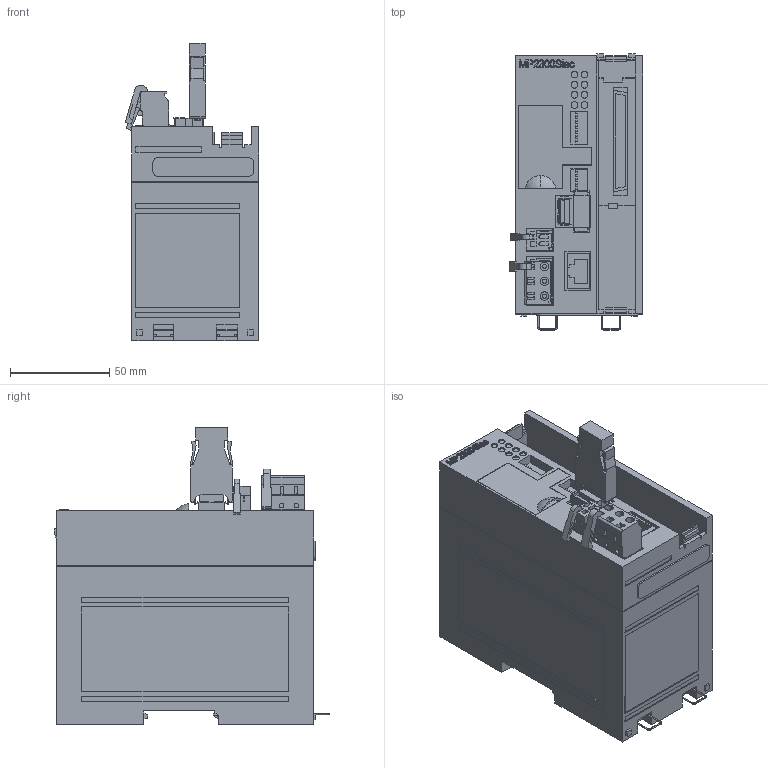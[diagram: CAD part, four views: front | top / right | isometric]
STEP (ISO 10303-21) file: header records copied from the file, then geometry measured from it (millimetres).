
FILE_DESCRIPTION (( 'STEP AP214' ), '1' );
FILE_NAME ('SOLID_MP2300Siec_01.STEP', '2011-06-27T19:06:01', ( 'Yaskawa' ), ( 'Yaskawa' ), 'SwSTEP 2.0', 'SolidWorks 2010', '' );
FILE_SCHEMA (( 'AUTOMOTIVE_DESIGN' ));
Length unit declared in the file: millimetre
Products named in the file (10): jepmc_mp2300s_e_connector1; jepmc_mp2300s_e_connector2; jepmc_mp2300s_e_pin1; jepmc_mp2300s_e_pin2; jepmc_mp2300s_e_connector3; jepmc_mp2300s_e_cover; jepmc_mp2300siec_e_base; SOLID_MP2300Siec_01
Assembly tree (9 placements, depth 3):
  SOLID_MP2300Siec_01
    jepmc_mp2300siec_e_base
    jepmc_mp2300s_e_cover
    jepmc_mp2300s_e_connector3
    jepmc_mp2300s_e_connector1
      jepmc_mp2300s_e_connector1
      jepmc_mp2300s_e_pin1
    jepmc_mp2300s_e_connector2
      jepmc_mp2300s_e_pin2
      jepmc_mp2300s_e_connector2
Bounding box: 67.32 x 139 x 150 mm (x, y, z)
Volume: 638575.5 mm3; surface area: 116289.3 mm2
Topology: 7 solids, 7 shells, 1316 faces, 3534 edges, 2325 vertices
Faces by surface type: plane 1090, cylinder 126, bspline 76, torus 24
Entity records: 51509 total; most frequent: CARTESIAN_POINT 12254, ORIENTED_EDGE 7068, DIRECTION 6136, EDGE_CURVE 3534, VECTOR 3070, LINE 3070, VERTEX_POINT 2325, AXIS2_PLACEMENT_3D 1533
